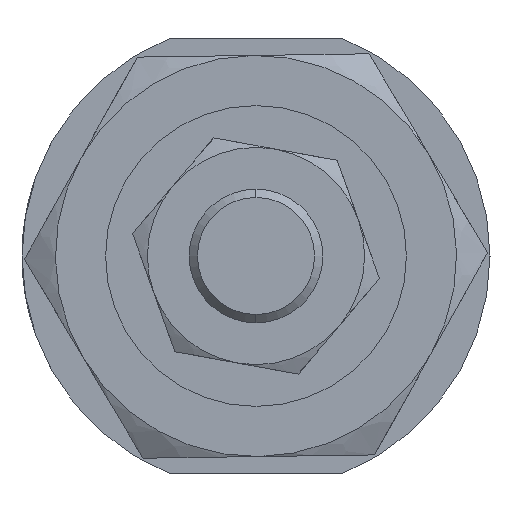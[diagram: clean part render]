
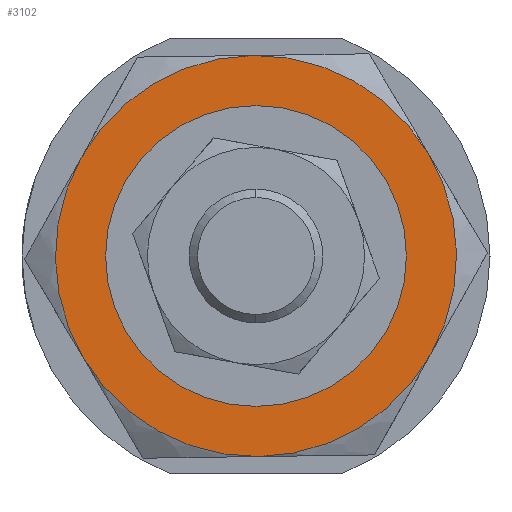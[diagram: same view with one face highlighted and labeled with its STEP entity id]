
A CAD part, left-side view. The second image highlights one B-rep face of the part: STEP entity #3102.
In plain terms, the highlighted planar face has unit normal (-1, 0, 0) as drawn and (0, 0, -1) by its records, which use the part's own axes.
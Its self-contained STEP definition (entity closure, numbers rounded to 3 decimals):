
#19 = CARTESIAN_POINT ( 'NONE',  ( 8.25, 0., -4. ) ) ;
#72 = PLANE ( 'NONE',  #3191 ) ;
#125 = CARTESIAN_POINT ( 'NONE',  ( -6., -10.392, -4. ) ) ;
#158 = VERTEX_POINT ( 'NONE', #1472 ) ;
#164 = AXIS2_PLACEMENT_3D ( 'NONE', #1457, #1660, #2549 ) ;
#195 = AXIS2_PLACEMENT_3D ( 'NONE', #2806, #1743, #1263 ) ;
#328 = DIRECTION ( 'NONE',  ( 1., 0., 0. ) ) ;
#434 = DIRECTION ( 'NONE',  ( 0., 0., 1. ) ) ;
#483 = CARTESIAN_POINT ( 'NONE',  ( 0., 0., -4. ) ) ;
#496 = CARTESIAN_POINT ( 'NONE',  ( 0., 0., -4. ) ) ;
#554 = CIRCLE ( 'NONE', #164, 12. ) ;
#694 = EDGE_LOOP ( 'NONE', ( #2209, #2403, #2735, #1693, #1921, #727 ) ) ;
#727 = ORIENTED_EDGE ( 'NONE', *, *, #2668, .F. ) ;
#804 = CIRCLE ( 'NONE', #1910, 8.25 ) ;
#814 = EDGE_CURVE ( 'NONE', #3162, #1615, #1295, .T. ) ;
#857 = EDGE_CURVE ( 'NONE', #158, #1162, #804, .T. ) ;
#948 = CARTESIAN_POINT ( 'NONE',  ( 0., 0., -4. ) ) ;
#952 = EDGE_CURVE ( 'NONE', #1431, #2973, #2196, .T. ) ;
#1106 = EDGE_CURVE ( 'NONE', #1901, #2156, #1174, .T. ) ;
#1134 = DIRECTION ( 'NONE',  ( 0., 0., 1. ) ) ;
#1161 = AXIS2_PLACEMENT_3D ( 'NONE', #2927, #1442, #2297 ) ;
#1162 = VERTEX_POINT ( 'NONE', #19 ) ;
#1174 = CIRCLE ( 'NONE', #3115, 12. ) ;
#1263 = DIRECTION ( 'NONE',  ( 1., 0., 0. ) ) ;
#1295 = CIRCLE ( 'NONE', #2874, 12. ) ;
#1387 = ORIENTED_EDGE ( 'NONE', *, *, #2128, .T. ) ;
#1410 = DIRECTION ( 'NONE',  ( 1., 0., 0. ) ) ;
#1431 = VERTEX_POINT ( 'NONE', #125 ) ;
#1442 = DIRECTION ( 'NONE',  ( 0., 0., 1. ) ) ;
#1457 = CARTESIAN_POINT ( 'NONE',  ( 0., 0., -4. ) ) ;
#1472 = CARTESIAN_POINT ( 'NONE',  ( -8.25, 0., -4. ) ) ;
#1607 = AXIS2_PLACEMENT_3D ( 'NONE', #2653, #2252, #2655 ) ;
#1615 = VERTEX_POINT ( 'NONE', #2987 ) ;
#1660 = DIRECTION ( 'NONE',  ( 0., 0., 1. ) ) ;
#1693 = ORIENTED_EDGE ( 'NONE', *, *, #3159, .F. ) ;
#1703 = AXIS2_PLACEMENT_3D ( 'NONE', #1869, #2680, #2166 ) ;
#1743 = DIRECTION ( 'NONE',  ( 0., 0., 1. ) ) ;
#1754 = EDGE_CURVE ( 'NONE', #2973, #1901, #2969, .T. ) ;
#1785 = EDGE_LOOP ( 'NONE', ( #1387, #2585 ) ) ;
#1813 = FACE_OUTER_BOUND ( 'NONE', #694, .T. ) ;
#1869 = CARTESIAN_POINT ( 'NONE',  ( 0., 0., -4. ) ) ;
#1901 = VERTEX_POINT ( 'NONE', #2036 ) ;
#1910 = AXIS2_PLACEMENT_3D ( 'NONE', #948, #2624, #328 ) ;
#1921 = ORIENTED_EDGE ( 'NONE', *, *, #814, .F. ) ;
#1968 = CARTESIAN_POINT ( 'NONE',  ( -6., 10.392, -4. ) ) ;
#2032 = CARTESIAN_POINT ( 'NONE',  ( 6., 10.392, -4. ) ) ;
#2036 = CARTESIAN_POINT ( 'NONE',  ( 12., 0., -4. ) ) ;
#2128 = EDGE_CURVE ( 'NONE', #1162, #158, #2257, .T. ) ;
#2156 = VERTEX_POINT ( 'NONE', #2032 ) ;
#2164 = CARTESIAN_POINT ( 'NONE',  ( 6., -10.392, -4. ) ) ;
#2166 = DIRECTION ( 'NONE',  ( 1., 0., 0. ) ) ;
#2171 = DIRECTION ( 'NONE',  ( 0., 0., 1. ) ) ;
#2196 = CIRCLE ( 'NONE', #1703, 12. ) ;
#2209 = ORIENTED_EDGE ( 'NONE', *, *, #1106, .F. ) ;
#2227 = FACE_BOUND ( 'NONE', #1785, .T. ) ;
#2252 = DIRECTION ( 'NONE',  ( 0., 0., 1. ) ) ;
#2257 = CIRCLE ( 'NONE', #1607, 8.25 ) ;
#2281 = DIRECTION ( 'NONE',  ( 1., 0., 0. ) ) ;
#2297 = DIRECTION ( 'NONE',  ( 1., 0., 0. ) ) ;
#2403 = ORIENTED_EDGE ( 'NONE', *, *, #1754, .F. ) ;
#2491 = CARTESIAN_POINT ( 'NONE',  ( 0., 0., -4. ) ) ;
#2549 = DIRECTION ( 'NONE',  ( 1., 0., 0. ) ) ;
#2585 = ORIENTED_EDGE ( 'NONE', *, *, #857, .T. ) ;
#2624 = DIRECTION ( 'NONE',  ( 0., 0., 1. ) ) ;
#2625 = CIRCLE ( 'NONE', #195, 12. ) ;
#2653 = CARTESIAN_POINT ( 'NONE',  ( 0., 0., -4. ) ) ;
#2655 = DIRECTION ( 'NONE',  ( 1., 0., 0. ) ) ;
#2668 = EDGE_CURVE ( 'NONE', #2156, #3162, #554, .T. ) ;
#2680 = DIRECTION ( 'NONE',  ( 0., 0., 1. ) ) ;
#2735 = ORIENTED_EDGE ( 'NONE', *, *, #952, .F. ) ;
#2806 = CARTESIAN_POINT ( 'NONE',  ( 0., 0., -4. ) ) ;
#2874 = AXIS2_PLACEMENT_3D ( 'NONE', #483, #434, #1410 ) ;
#2927 = CARTESIAN_POINT ( 'NONE',  ( 0., 0., -4. ) ) ;
#2969 = CIRCLE ( 'NONE', #1161, 12. ) ;
#2973 = VERTEX_POINT ( 'NONE', #2164 ) ;
#2987 = CARTESIAN_POINT ( 'NONE',  ( -12., 0., -4. ) ) ;
#3029 = DIRECTION ( 'NONE',  ( 1., 0., 0. ) ) ;
#3102 = ADVANCED_FACE ( 'NONE', ( #2227, #1813 ), #72, .F. ) ;
#3115 = AXIS2_PLACEMENT_3D ( 'NONE', #2491, #1134, #3029 ) ;
#3159 = EDGE_CURVE ( 'NONE', #1615, #1431, #2625, .T. ) ;
#3162 = VERTEX_POINT ( 'NONE', #1968 ) ;
#3191 = AXIS2_PLACEMENT_3D ( 'NONE', #496, #2171, #2281 ) ;
